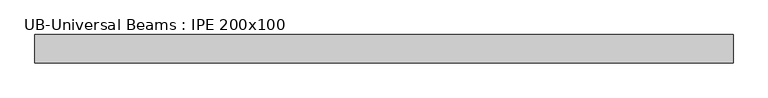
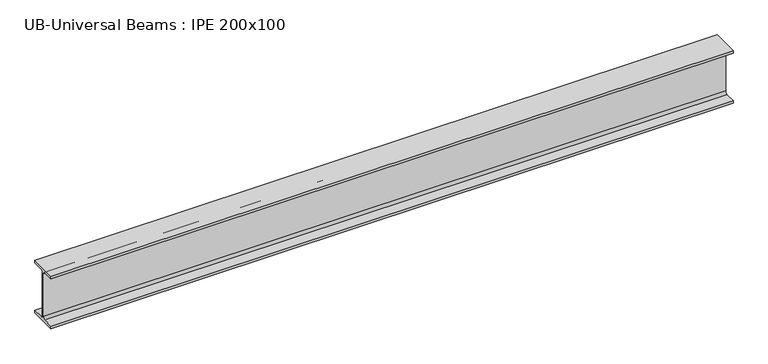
"""IFC4 building model written with IfcOpenShell, lengths in millimetres: beam geometry, UB-Universal Beams : IPE 200x100."""

from ifc_helpers import new_model, si_unit, point, frame, frame_2d, origin, place, context, project, spatial, polyline, circle_curve, trimmed, segment, composite_curve, outline, extrude, source, transform, mapped, element, save


def ub_universal_beams_ipe_200x100_1ecb3d1d(model_context):
    return source(origin(), model_context, "Body", "SweptSolid", [
        extrude(outline(composite_curve([segment(polyline([(50.0, -89.8), (50.0, -100.0), (-50.0, -100.0), (-50.0, -89.8), (-11.9, -89.8)]), True, "CONTINUOUS"), segment(trimmed(circle_curve(frame_2d((-11.9, -80.9)), 8.9), [point((-11.9, -89.8))], [point((-3.0, -80.9))], True, "CARTESIAN"), True, "CONTINUOUS"), segment(polyline([(-3.0, -80.9), (-3.0, 80.9)]), True, "CONTINUOUS"), segment(trimmed(circle_curve(frame_2d((-11.9, 80.9)), 8.9), [point((-3.0, 80.9))], [point((-11.9, 89.8))], True, "CARTESIAN"), True, "CONTINUOUS"), segment(polyline([(-11.9, 89.8), (-50.0, 89.8), (-50.0, 100.0), (50.0, 100.0), (50.0, 89.8), (11.9, 89.8)]), True, "CONTINUOUS"), segment(trimmed(circle_curve(frame_2d((11.9, 80.9)), 8.9), [point((11.9, 89.8))], [point((3.0, 80.9))], True, "CARTESIAN"), True, "CONTINUOUS"), segment(polyline([(3.0, 80.9), (3.0, -80.9)]), True, "CONTINUOUS"), segment(trimmed(circle_curve(frame_2d((11.9, -80.9)), 8.9), [point((3.0, -80.9))], [point((11.9, -89.8))], True, "CARTESIAN"), True, "CONTINUOUS"), segment(polyline([(11.9, -89.8), (50.0, -89.8)]), True, "CONTINUOUS")], self_intersect=False)), frame((-854.65, 0.0, 0.0), z_axis=(1.0, 0.0, 0.0), x_axis=(0.0, 1.0, 0.0)), (0.0, 0.0, 1.0), 2459.3),
    ])


if __name__ == "__main__":
    model = new_model("IFC4")
    model_context = context("Model", 3, world=origin())
    ifc_project = project(units=[si_unit("LENGTHUNIT", "METRE", prefix="MILLI")], contexts=[model_context])
    site = spatial("IfcSite", under=ifc_project)
    building = spatial("IfcBuilding", under=site)
    placement = place(None, origin())
    ub_universal_beams_ipe_200x100_shape = ub_universal_beams_ipe_200x100_1ecb3d1d(model_context)
    element("IfcBeam", 1, ObjectType="UB-Universal Beams : IPE 200x100", at=placement, inside=building, context=model_context, shape_type="MappedRepresentation", body=[
        mapped(ub_universal_beams_ipe_200x100_shape, transform((0.0, 0.0, 0.0), x_axis=(1.0, 0.0, 0.0), y_axis=(0.0, 1.0, 0.0), z_axis=(0.0, 0.0, 1.0))),
    ])
    save(model, "model.ifc")
